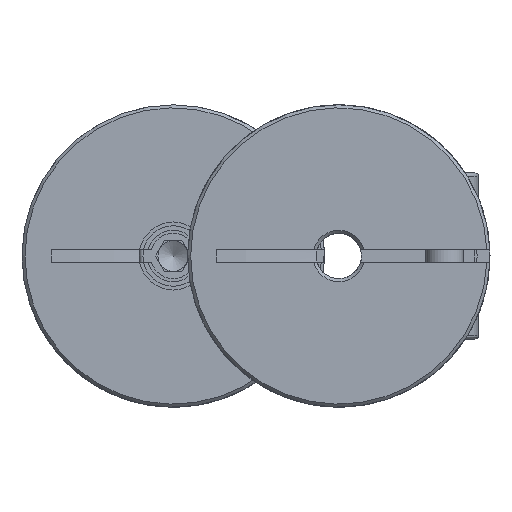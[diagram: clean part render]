
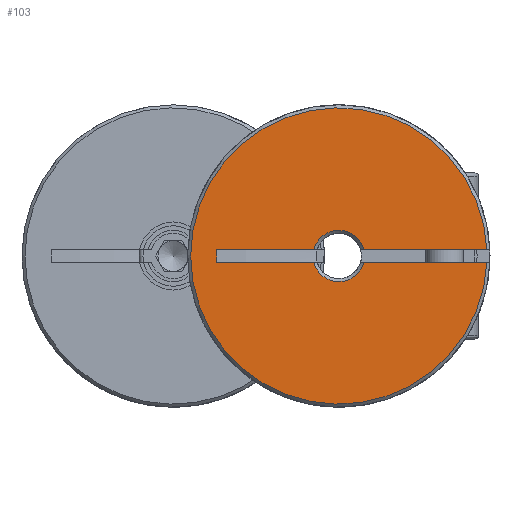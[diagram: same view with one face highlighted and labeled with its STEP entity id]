
A CAD part, left-side view. The second image highlights one B-rep face of the part: STEP entity #103.
In plain terms, the highlighted planar face has unit normal (-1, 0, 0).
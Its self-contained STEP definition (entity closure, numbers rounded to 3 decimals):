
#103 = ADVANCED_FACE( 'NONE', ( #200 ), #201, .F. );
#200 = FACE_OUTER_BOUND( '', #297, .T. );
#201 = PLANE( '', #298 );
#297 = EDGE_LOOP( '', ( #563, #564, #565, #566, #567, #568, #569, #570 ) );
#298 = AXIS2_PLACEMENT_3D( '', #571, #572, #573 );
#563 = ORIENTED_EDGE( '', *, *, #938, .T. );
#564 = ORIENTED_EDGE( '', *, *, #945, .T. );
#565 = ORIENTED_EDGE( '', *, *, #925, .T. );
#566 = ORIENTED_EDGE( '', *, *, #901, .T. );
#567 = ORIENTED_EDGE( '', *, *, #906, .F. );
#568 = ORIENTED_EDGE( '', *, *, #943, .T. );
#569 = ORIENTED_EDGE( '', *, *, #933, .F. );
#570 = ORIENTED_EDGE( '', *, *, #947, .T. );
#571 = CARTESIAN_POINT( '', ( 0., 1.5, 0. ) );
#572 = DIRECTION( '', ( 1., 0., 0. ) );
#573 = DIRECTION( '', ( 0., 1., 0. ) );
#901 = EDGE_CURVE( 'NONE', #1268, #1266, #1269, .F. );
#906 = EDGE_CURVE( 'NONE', #1275, #1266, #1277, .F. );
#925 = EDGE_CURVE( 'NONE', #1307, #1268, #1308, .T. );
#933 = EDGE_CURVE( 'NONE', #1317, #1318, #1319, .F. );
#938 = EDGE_CURVE( 'NONE', #1325, #1323, #1326, .T. );
#943 = EDGE_CURVE( 'NONE', #1275, #1318, #1331, .T. );
#945 = EDGE_CURVE( 'NONE', #1323, #1307, #1333, .T. );
#947 = EDGE_CURVE( 'NONE', #1317, #1325, #1335, .T. );
#1266 = VERTEX_POINT( 'NONE', #2005 );
#1268 = VERTEX_POINT( 'NONE', #2010 );
#1269 = CIRCLE( '', #2011, 9.8 );
#1275 = VERTEX_POINT( 'NONE', #2021 );
#1277 = LINE( '', #2026, #2027 );
#1307 = VERTEX_POINT( 'NONE', #2067 );
#1308 = LINE( '', #2068, #2069 );
#1317 = VERTEX_POINT( 'NONE', #2082 );
#1318 = VERTEX_POINT( 'NONE', #2083 );
#1319 = LINE( '', #2084, #2085 );
#1323 = VERTEX_POINT( 'NONE', #2092 );
#1325 = VERTEX_POINT( 'NONE', #2097 );
#1326 = LINE( '', #2098, #2099 );
#1331 = CIRCLE( '', #2104, 1.7 );
#1333 = CIRCLE( '', #2106, 1.7 );
#1335 = LINE( '', #2108, #2109 );
#2005 = CARTESIAN_POINT( '', ( 0., -9.792, -0.4 ) );
#2010 = CARTESIAN_POINT( '', ( 0., -9.792, 0.4 ) );
#2011 = AXIS2_PLACEMENT_3D( '', #2252, #2253, #2254 );
#2021 = CARTESIAN_POINT( '', ( 0., -1.652, -0.4 ) );
#2026 = CARTESIAN_POINT( '', ( 0., -4., -0.4 ) );
#2027 = VECTOR( '', #2256, 1000. );
#2067 = CARTESIAN_POINT( '', ( 0., -1.652, 0.4 ) );
#2068 = CARTESIAN_POINT( '', ( 0., 1.5, 0.4 ) );
#2069 = VECTOR( '', #2286, 1000. );
#2082 = CARTESIAN_POINT( '', ( 0., 8.073, -0.4 ) );
#2083 = CARTESIAN_POINT( '', ( 0., 1.652, -0.4 ) );
#2084 = CARTESIAN_POINT( '', ( 0., -4., -0.4 ) );
#2085 = VECTOR( '', #2294, 1000. );
#2092 = CARTESIAN_POINT( '', ( 0., 1.652, 0.4 ) );
#2097 = CARTESIAN_POINT( '', ( 0., 8.073, 0.4 ) );
#2098 = CARTESIAN_POINT( '', ( 0., 1.5, 0.4 ) );
#2099 = VECTOR( '', #2298, 1000. );
#2104 = AXIS2_PLACEMENT_3D( '', #2302, #2303, #2304 );
#2106 = AXIS2_PLACEMENT_3D( '', #2305, #2306, #2307 );
#2108 = CARTESIAN_POINT( '', ( 0., 8.073, -0.4 ) );
#2109 = VECTOR( '', #2308, 1000. );
#2252 = CARTESIAN_POINT( '', ( 0., 0., 0. ) );
#2253 = DIRECTION( '', ( 1., 0., 0. ) );
#2254 = DIRECTION( '', ( 0., 0., -1. ) );
#2256 = DIRECTION( '', ( 0., 1., 0. ) );
#2286 = DIRECTION( '', ( 0., -1., 0. ) );
#2294 = DIRECTION( '', ( 0., 1., 0. ) );
#2298 = DIRECTION( '', ( 0., -1., 0. ) );
#2302 = CARTESIAN_POINT( '', ( 0., 0., 0. ) );
#2303 = DIRECTION( '', ( 1., 0., 0. ) );
#2304 = DIRECTION( '', ( 0., 0., -1. ) );
#2305 = CARTESIAN_POINT( '', ( 0., 0., 0. ) );
#2306 = DIRECTION( '', ( 1., 0., 0. ) );
#2307 = DIRECTION( '', ( 0., 0., -1. ) );
#2308 = DIRECTION( '', ( 0., 0., 1. ) );
